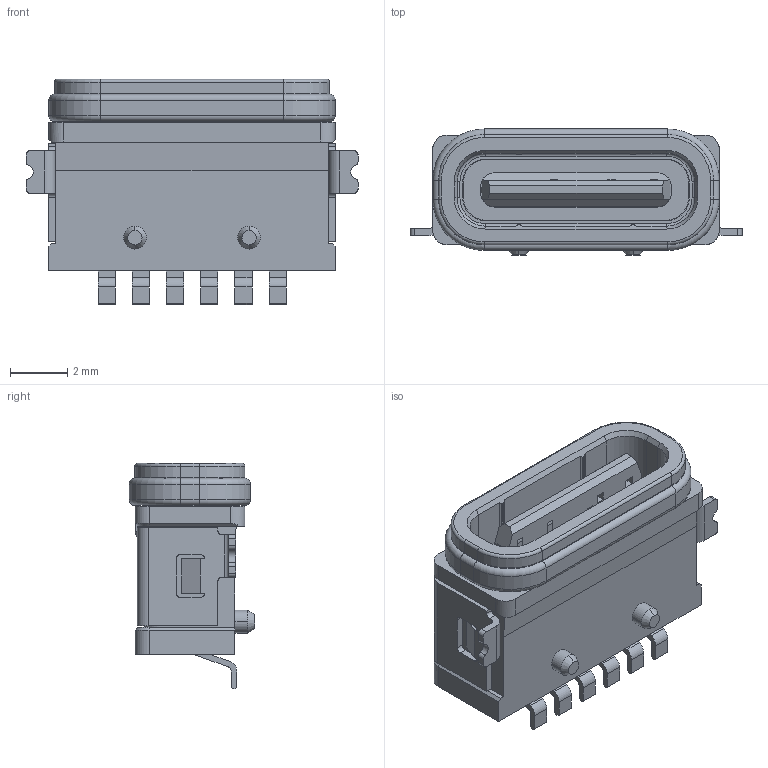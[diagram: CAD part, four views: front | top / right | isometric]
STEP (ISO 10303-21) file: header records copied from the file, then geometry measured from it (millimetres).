
FILE_DESCRIPTION((''),'2;1');
FILE_NAME('GT-USB-7041A','2023-05-18T',('Administrator'),(''),'PRO/ENGINEER BY PARAMETRIC TECHNOLOGY CORPORATION, 2013040','PRO/ENGINEER BY PARAMETRIC TECHNOLOGY CORPORATION, 2013040','');
FILE_SCHEMA(('CONFIG_CONTROL_DESIGN'));
Length unit declared in the file: millimetre
Products named in the file (1): GT-USB-7041A
Bounding box: 11.64 x 4.41 x 7.9 mm (x, y, z)
Volume: 163.5 mm3; surface area: 626 mm2
Topology: 1 solids, 3 shells, 993 faces, 2703 edges, 1779 vertices
Faces by surface type: plane 798, cylinder 155, cone 24, torus 16
Entity records: 31039 total; most frequent: CARTESIAN_POINT 5658, ORIENTED_EDGE 5406, DIRECTION 4985, EDGE_CURVE 2703, VECTOR 2313, LINE 2313, VERTEX_POINT 1779, AXIS2_PLACEMENT_3D 1336
